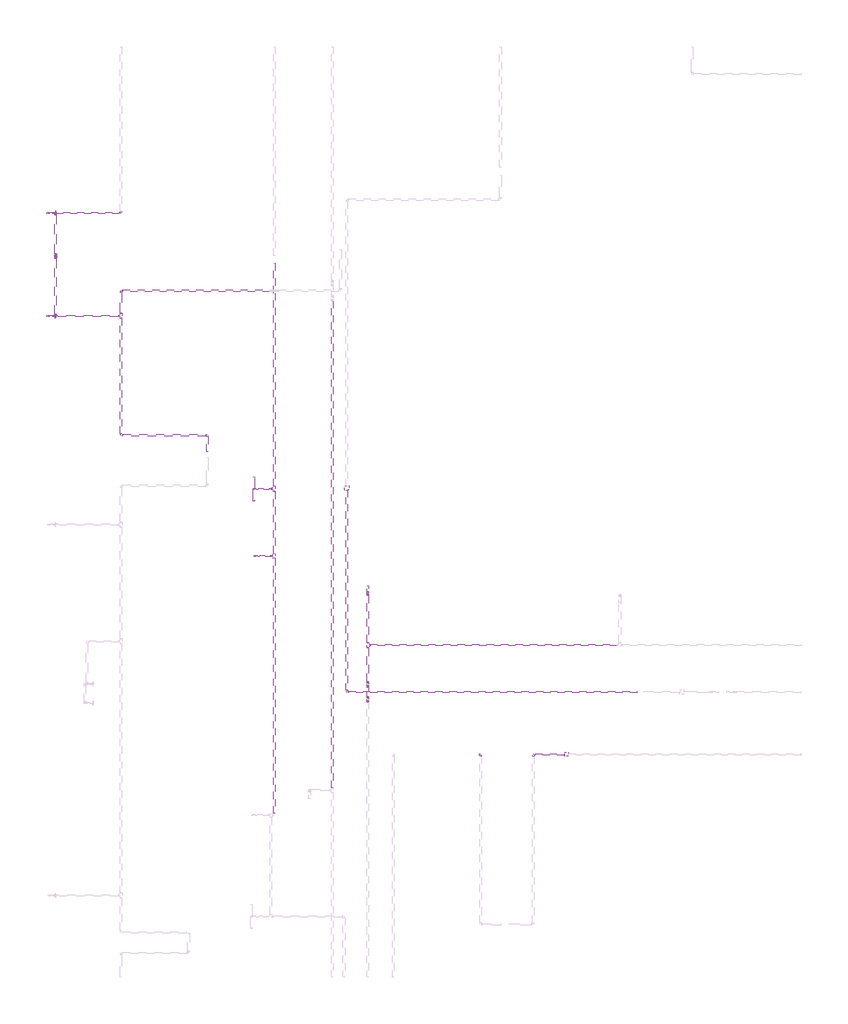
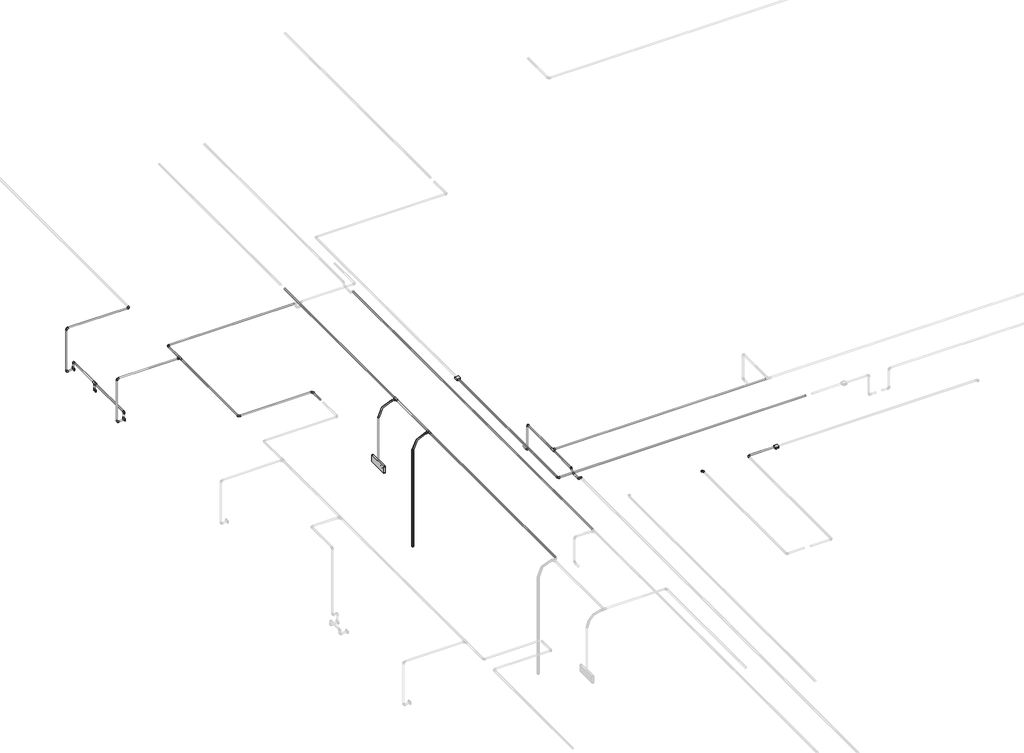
# One storey, part 15 of 40: 35 cable carrier segments, 26 cable carrier fittings, 3 alarms, 3 electric appliances.
"""IFC4 building model written with IfcOpenShell, lengths in millimetres."""

from ifc_helpers import new_model, si_unit, point, frame, frame_2d, origin, place, context, project, spatial, circle_curve, trimmed, segment, composite_curve, outline, extrude, transform, mapped, element, save
from components import alarm_4b7e8fd8, alarm_a2247946, cable_carrier_fitting_69f1a801, cable_carrier_fitting_6f8a8c02, cable_carrier_fitting_8122f9af, cable_carrier_fitting_8fd13dfc, electric_appliance_5961a143

model = new_model("IFC4")

# Units and contexts
model_context = context("Model", 3, world=origin())
ifc_project = project(units=[si_unit("LENGTHUNIT", "METRE", prefix="MILLI")], contexts=[model_context])

# Site, building, storey
site = spatial("IfcSite", under=ifc_project)
building = spatial("IfcBuilding", under=site)
storey = spatial("IfcBuildingStorey", under=building, Name="1 этаж", Elevation=0.0)

# Alarms
placement = place(None, origin())
alarm_shape = alarm_4b7e8fd8(model_context)
element("IfcAlarm", 1, ObjectType="RBZ_Оповещатель_Световой_Рубеж_ОПОП1-R3(грань) : ОПОП 1-R3 \"Выход\"", at=placement, inside=storey, context=model_context, shape_type="MappedRepresentation", body=[
    mapped(alarm_shape, transform((-35882.3240021, 7612.1370105, 2300.0), x_axis=(0.0, 1.0, 0.0), y_axis=(0.0, 0.0, 1.0), z_axis=(1.0, 0.0, 0.0))),
])
alarm_2_shape = alarm_a2247946(model_context)
element("IfcAlarm", 2, ObjectType="RBZ_ИзоляторШлейфа_Рубеж_ИЗ-1_прот.R3(плоскость) : ИЗ-1 прот.R3", at=placement, inside=storey, context=model_context, shape_type="MappedRepresentation", body=[
    mapped(alarm_2_shape, transform((-32062.3240021, 4379.6370103, 3197.7541146), x_axis=(1.0, 0.0, 0.0), y_axis=(0.0, 1.0, 0.0), z_axis=(0.0, 0.0, 1.0))),
])
element("IfcAlarm", 3, ObjectType="RBZ_ИзоляторШлейфа_Рубеж_ИЗ-1_прот.R3(плоскость) : ИЗ-1 прот.R3", at=placement, inside=storey, context=model_context, shape_type="MappedRepresentation", body=[
    mapped(alarm_2_shape, transform((-34737.3240021, 7623.7184773, 3200.75), x_axis=(1.0, 0.0, 0.0), y_axis=(0.0, 1.0, 0.0), z_axis=(0.0, 0.0, 1.0))),
])

# Cable carrier fittings
cable_carrier_fitting_shape = cable_carrier_fitting_69f1a801(model_context)
element("IfcCableCarrierFitting", 4, ObjectType="ADSK_Поворот_Минимальный размер : Неспецифицируемый", at=placement, inside=storey, context=model_context, shape_type="MappedRepresentation", body=[
    mapped(cable_carrier_fitting_shape, transform((-32465.8231258, 4379.6370103, 3187.0041146), x_axis=(-1.0, 0.0, 0.0), y_axis=(0.0, -1.0, 0.0), z_axis=(0.0, 0.0, 1.0))),
])
element("IfcCableCarrierFitting", 5, ObjectType="ADSK_Поворот_Минимальный размер : Неспецифицируемый", at=placement, inside=storey, context=model_context, shape_type="MappedRepresentation", body=[
    mapped(cable_carrier_fitting_shape, transform((-33108.8239961, 4379.6370105, 3187.002391), x_axis=(0.0, 1.0, 0.0), y_axis=(-0.9999999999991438, 0.0, -1.3086076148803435e-06), z_axis=(-1.3086076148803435e-06, 0.0, 0.9999999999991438))),
])
element("IfcCableCarrierFitting", 6, ObjectType="ADSK_Поворот_Минимальный размер : Неспецифицируемый", at=placement, inside=storey, context=model_context, shape_type="MappedRepresentation", body=[
    mapped(cable_carrier_fitting_shape, transform((-34737.3240021, 5139.6370105, 3190.0), x_axis=(0.0, -1.0, 0.0), y_axis=(1.0, 0.0, 0.0), z_axis=(0.0, 0.0, 1.0))),
])
element("IfcCableCarrierFitting", 7, ObjectType="ADSK_Поворот_Минимальный размер : Неспецифицируемый", at=placement, inside=storey, context=model_context, shape_type="MappedRepresentation", body=[
    mapped(cable_carrier_fitting_shape, transform((-38386.5238077, 10971.1370105, 3187.0), x_axis=(0.0, 0.0, 1.0), y_axis=(1.0, 0.0, 0.0), z_axis=(0.0, 1.0, 0.0))),
])
element("IfcCableCarrierFitting", 8, ObjectType="ADSK_Поворот_Минимальный размер : Неспецифицируемый", at=placement, inside=storey, context=model_context, shape_type="MappedRepresentation", body=[
    mapped(cable_carrier_fitting_shape, transform((-38286.3240021, 9717.1370105, 2650.0), x_axis=(0.0, -1.0, 0.0), y_axis=(0.0, 0.0, -1.0), z_axis=(1.0, 0.0, 0.0))),
])
element("IfcCableCarrierFitting", 9, ObjectType="ADSK_Поворот_Минимальный размер : Неспецифицируемый", at=placement, inside=storey, context=model_context, shape_type="MappedRepresentation", body=[
    mapped(cable_carrier_fitting_shape, transform((-38386.5238077, 9717.1370105, 2534.0911237), x_axis=(0.0, 0.0, -1.0), y_axis=(1.0, 0.0, 0.0), z_axis=(0.0, -1.0, 0.0))),
])
element("IfcCableCarrierFitting", 10, ObjectType="ADSK_Поворот_Минимальный размер : Неспецифицируемый", at=placement, inside=storey, context=model_context, shape_type="MappedRepresentation", body=[
    mapped(cable_carrier_fitting_shape, transform((-38386.5238077, 10971.1370105, 2534.0911237), x_axis=(0.0, 0.0, -1.0), y_axis=(1.0, 0.0, 0.0), z_axis=(0.0, -1.0, 0.0))),
])
element("IfcCableCarrierFitting", 11, ObjectType="ADSK_Поворот_Минимальный размер : Неспецифицируемый", at=placement, inside=storey, context=model_context, shape_type="MappedRepresentation", body=[
    mapped(cable_carrier_fitting_shape, transform((-36434.8240021, 8264.5987933, 3187.0), x_axis=(0.0, 1.0, 0.0), y_axis=(-1.0, 0.0, 0.0), z_axis=(0.0, 0.0, 1.0))),
])
element("IfcCableCarrierFitting", 12, ObjectType="ADSK_Поворот_Минимальный размер : Неспецифицируемый", at=placement, inside=storey, context=model_context, shape_type="MappedRepresentation", body=[
    mapped(cable_carrier_fitting_shape, transform((-37489.3240021, 10024.6370105, 3187.0), x_axis=(-1.0, 0.0, 0.0), y_axis=(0.0, -1.0, 0.0), z_axis=(0.0, 0.0, 1.0))),
])
element("IfcCableCarrierFitting", 13, ObjectType="ADSK_Поворот_Минимальный размер : Неспецифицируемый", at=placement, inside=storey, context=model_context, shape_type="MappedRepresentation", body=[
    mapped(cable_carrier_fitting_shape, transform((-37489.3240021, 8264.5987933, 3187.0), x_axis=(0.0, -1.0, 0.0), y_axis=(1.0, 0.0, 0.0), z_axis=(0.0, 0.0, 1.0))),
])
element("IfcCableCarrierFitting", 14, ObjectType="ADSK_Поворот_Минимальный размер : Неспецифицируемый", at=placement, inside=storey, context=model_context, shape_type="MappedRepresentation", body=[
    mapped(cable_carrier_fitting_shape, transform((-38386.5238077, 9717.1370105, 3187.0), x_axis=(0.0, 0.0, 1.0), y_axis=(1.0, 0.0, 0.0), z_axis=(0.0, 1.0, 0.0))),
])
element("IfcCableCarrierFitting", 15, ObjectType="ADSK_Поворот_Минимальный размер : Неспецифицируемый", at=placement, inside=storey, context=model_context, shape_type="MappedRepresentation", body=[
    mapped(cable_carrier_fitting_shape, transform((-34481.7856953, 6337.4372049, 2797.4861504), x_axis=(0.0, -1.0, 0.0), y_axis=(0.0, 0.0, 1.0), z_axis=(-1.0, 0.0, 0.0))),
])
element("IfcCableCarrierFitting", 16, ObjectType="ADSK_Поворот_Минимальный размер : Неспецифицируемый", at=placement, inside=storey, context=model_context, shape_type="MappedRepresentation", body=[
    mapped(cable_carrier_fitting_shape, transform((-34481.7856953, 6337.4372049, 3180.0), x_axis=(0.0, 0.0, 1.0), y_axis=(0.0, -1.0, 0.0), z_axis=(1.0, 0.0, 0.0))),
])
element("IfcCableCarrierFitting", 17, ObjectType="ADSK_Поворот_Минимальный размер : Неспецифицируемый", at=placement, inside=storey, context=model_context, shape_type="MappedRepresentation", body=[
    mapped(cable_carrier_fitting_shape, transform((-37489.3240021, 10971.1370105, 3187.0), x_axis=(1.0, 0.0, 0.0), y_axis=(0.0, 1.0, 0.0), z_axis=(0.0, 0.0, 1.0))),
])
element("IfcCableCarrierFitting", 18, ObjectType="ADSK_Поворот_Минимальный размер : Неспецифицируемый", at=placement, inside=storey, context=model_context, shape_type="MappedRepresentation", body=[
    mapped(cable_carrier_fitting_shape, transform((-38286.3240021, 10971.1370105, 2650.0), x_axis=(0.0, 1.0, 0.0), y_axis=(0.0, 0.0, -1.0), z_axis=(-1.0, 0.0, 0.0))),
])
cable_carrier_fitting_2_shape = cable_carrier_fitting_6f8a8c02(model_context)
element("IfcCableCarrierFitting", 19, ObjectType="ADSK_Поворот_Минимальный размер : Неспецифицируемый", at=placement, inside=storey, context=model_context, shape_type="MappedRepresentation", body=[
    mapped(cable_carrier_fitting_2_shape, transform((-35854.8402119, 6794.6370105, 3190.0666752), x_axis=(0.0, 0.0, 1.0), y_axis=(1.0, 0.0, 0.0), z_axis=(0.0, 1.0, 0.0))),
])
element("IfcCableCarrierFitting", 20, ObjectType="ADSK_Поворот_Минимальный размер : Неспецифицируемый", at=placement, inside=storey, context=model_context, shape_type="MappedRepresentation", body=[
    mapped(cable_carrier_fitting_2_shape, transform((-35872.3240021, 7612.1370105, 3190.0666752), x_axis=(0.0, 0.0, 1.0), y_axis=(1.0, 0.0, 0.0), z_axis=(0.0, 1.0, 0.0))),
])
cable_carrier_fitting_3_shape = cable_carrier_fitting_8122f9af(model_context)
element("IfcCableCarrierFitting", 21, ObjectType="ADSK_Поворот_Минимальный размер : Неспецифицируемый", at=placement, inside=storey, context=model_context, shape_type="MappedRepresentation", body=[
    mapped(cable_carrier_fitting_3_shape, transform((-34481.7856953, 5073.0647393, 3130.0), x_axis=(0.0, 0.7071067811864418, -0.7071067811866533), y_axis=(0.0, 0.7071067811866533, 0.7071067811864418), z_axis=(1.0, 0.0, 0.0))),
])
element("IfcCableCarrierFitting", 22, ObjectType="ADSK_Поворот_Минимальный размер : Неспецифицируемый", at=placement, inside=storey, context=model_context, shape_type="MappedRepresentation", body=[
    mapped(cable_carrier_fitting_3_shape, transform((-34481.7856953, 5206.2092818, 3130.0), x_axis=(0.0, 1.0, 0.0), y_axis=(0.0, 0.0, 1.0), z_axis=(1.0, 0.0, 0.0))),
])
element("IfcCableCarrierFitting", 23, ObjectType="ADSK_Поворот_Минимальный размер : Неспецифицируемый", at=placement, inside=storey, context=model_context, shape_type="MappedRepresentation", body=[
    mapped(cable_carrier_fitting_3_shape, transform((-34481.7856953, 5256.2092818, 3180.0), x_axis=(0.0, 0.7071067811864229, 0.7071067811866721), y_axis=(0.0, 0.7071067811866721, -0.7071067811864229), z_axis=(-1.0, 0.0, 0.0))),
])
element("IfcCableCarrierFitting", 24, ObjectType="ADSK_Поворот_Минимальный размер : Неспецифицируемый", at=placement, inside=storey, context=model_context, shape_type="MappedRepresentation", body=[
    mapped(cable_carrier_fitting_3_shape, transform((-34481.7856953, 5023.0647393, 3180.0), x_axis=(0.0, -0.7071067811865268, 0.7071067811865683), y_axis=(0.0, -0.7071067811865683, -0.7071067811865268), z_axis=(1.0, 0.0, 0.0))),
])
cable_carrier_fitting_4_shape = cable_carrier_fitting_8fd13dfc(model_context)
element("IfcCableCarrierFitting", 25, ObjectType="ADSK_Тройник : ПВХ", at=placement, inside=storey, context=model_context, shape_type="MappedRepresentation", body=[
    mapped(cable_carrier_fitting_4_shape, transform((-35623.0641762, 6794.6370105, 3190.0666752), x_axis=(0.0, -1.0, 0.0), y_axis=(1.0, 0.0, 0.0), z_axis=(0.0, 0.0, 1.0))),
])
element("IfcCableCarrierFitting", 26, ObjectType="ADSK_Тройник : ПВХ", at=placement, inside=storey, context=model_context, shape_type="MappedRepresentation", body=[
    mapped(cable_carrier_fitting_4_shape, transform((-35623.0641762, 7612.1370105, 3190.0666752), x_axis=(0.0, -1.0, 0.0), y_axis=(1.0, 0.0, 0.0), z_axis=(0.0, 0.0, 1.0))),
])
element("IfcCableCarrierFitting", 27, ObjectType="ADSK_Тройник : ПВХ", at=placement, inside=storey, context=model_context, shape_type="MappedRepresentation", body=[
    mapped(cable_carrier_fitting_4_shape, transform((-38286.3240021, 10442.1370105, 2650.0), x_axis=(0.0, 1.0, 0.0), y_axis=(0.0, 0.0, 1.0), z_axis=(1.0, 0.0, 0.0))),
])
element("IfcCableCarrierFitting", 28, ObjectType="ADSK_Тройник : ПВХ", at=placement, inside=storey, context=model_context, shape_type="MappedRepresentation", body=[
    mapped(cable_carrier_fitting_4_shape, transform((-37489.3240021, 9717.1370105, 3187.0), x_axis=(0.0, -1.0, 0.0), y_axis=(1.0, 0.0, 0.0), z_axis=(0.0, 0.0, 1.0))),
])
element("IfcCableCarrierFitting", 29, ObjectType="ADSK_Тройник : ПВХ", at=placement, inside=storey, context=model_context, shape_type="MappedRepresentation", body=[
    mapped(cable_carrier_fitting_4_shape, transform((-34481.7856953, 5709.6370105, 3180.0), x_axis=(0.0, 1.0, 0.0), y_axis=(-1.0, 0.0, 0.0), z_axis=(0.0, 0.0, 1.0))),
])

# Cable carrier segments
element("IfcCableCarrierSegment", 30, ObjectType="Гофрированная труба", at=placement, inside=storey, context=model_context, shape_type="SweptSolid", body=[
    extrude(outline(composite_curve([segment(trimmed(circle_curve(frame_2d((4379.6370103, 3187.0041146)), 10.0), [point((4369.6370103, 3187.0041146))], [point((4379.6370103, 3197.0041146))], False, "CARTESIAN"), True, "CONTINUOUS"), segment(trimmed(circle_curve(frame_2d((4379.6370103, 3187.0041146)), 10.0), [point((4379.6370103, 3197.0041146))], [point((4389.6370103, 3187.0041146))], False, "CARTESIAN"), True, "CONTINUOUS"), segment(trimmed(circle_curve(frame_2d((4379.6370103, 3187.0041146)), 10.0), [point((4389.6370103, 3187.0041146))], [point((4379.6370103, 3177.0041146))], False, "CARTESIAN"), True, "CONTINUOUS"), segment(trimmed(circle_curve(frame_2d((4379.6370103, 3187.0041146)), 10.0), [point((4379.6370103, 3177.0041146))], [point((4369.6370103, 3187.0041146))], False, "CARTESIAN"), True, "CONTINUOUS")], self_intersect=False)), frame((-32444.8231258, 0.0, 0.0), z_axis=(1.0, 0.0, 0.0), x_axis=(0.0, 1.0, 0.0)), (0.0, 0.0, 1.0), 356.4991237),
])
element("IfcCableCarrierSegment", 31, ObjectType="Гофрированная труба", at=placement, inside=storey, context=model_context, shape_type="SweptSolid", body=[
    extrude(outline(composite_curve([segment(trimmed(circle_curve(frame_2d((3190.0666752, -35623.0641762)), 10.0), [point((3190.0666752, -35613.0641762))], [point((3200.0666752, -35623.0641762))], False, "CARTESIAN"), True, "CONTINUOUS"), segment(trimmed(circle_curve(frame_2d((3190.0666752, -35623.0641762)), 10.0), [point((3200.0666752, -35623.0641762))], [point((3190.0666752, -35633.0641762))], False, "CARTESIAN"), True, "CONTINUOUS"), segment(trimmed(circle_curve(frame_2d((3190.0666752, -35623.0641762)), 10.0), [point((3190.0666752, -35633.0641762))], [point((3180.0666752, -35623.0641762))], False, "CARTESIAN"), True, "CONTINUOUS"), segment(trimmed(circle_curve(frame_2d((3190.0666752, -35623.0641762)), 10.0), [point((3180.0666752, -35623.0641762))], [point((3190.0666752, -35613.0641762))], False, "CARTESIAN"), True, "CONTINUOUS")], self_intersect=False)), frame((0.0, 3663.1370105, 0.0), z_axis=(0.0, 1.0, 0.0), x_axis=(0.0, 0.0, 1.0)), (0.0, 0.0, 1.0), 3101.5),
])
element("IfcCableCarrierSegment", 32, ObjectType="Гофрированная труба", at=placement, inside=storey, context=model_context, shape_type="SweptSolid", body=[
    extrude(outline(composite_curve([segment(trimmed(circle_curve(frame_2d((6794.6370105, 3190.0666752)), 10.0), [point((6804.6370105, 3190.0666752))], [point((6794.6370105, 3180.0666752))], False, "CARTESIAN"), True, "CONTINUOUS"), segment(trimmed(circle_curve(frame_2d((6794.6370105, 3190.0666752)), 10.0), [point((6794.6370105, 3180.0666752))], [point((6784.6370105, 3190.0666752))], False, "CARTESIAN"), True, "CONTINUOUS"), segment(trimmed(circle_curve(frame_2d((6794.6370105, 3190.0666752)), 10.0), [point((6784.6370105, 3190.0666752))], [point((6794.6370105, 3200.0666752))], False, "CARTESIAN"), True, "CONTINUOUS"), segment(trimmed(circle_curve(frame_2d((6794.6370105, 3190.0666752)), 10.0), [point((6794.6370105, 3200.0666752))], [point((6804.6370105, 3190.0666752))], False, "CARTESIAN"), True, "CONTINUOUS")], self_intersect=False)), frame((-35664.8402119, 0.0, 0.0), z_axis=(1.0, 0.0, 0.0), x_axis=(0.0, 1.0, 0.0)), (0.0, 0.0, 1.0), 11.7760356),
])
element("IfcCableCarrierSegment", 33, ObjectType="Гофрированная труба", at=placement, inside=storey, context=model_context, shape_type="SweptSolid", body=[
    extrude(outline(composite_curve([segment(trimmed(circle_curve(frame_2d((-35854.8402119, 6794.6370105)), 10.0), [point((-35864.8402119, 6794.6370105))], [point((-35854.8402119, 6804.6370105))], False, "CARTESIAN"), True, "CONTINUOUS"), segment(trimmed(circle_curve(frame_2d((-35854.8402119, 6794.6370105)), 10.0), [point((-35854.8402119, 6804.6370105))], [point((-35844.8402119, 6794.6370105))], False, "CARTESIAN"), True, "CONTINUOUS"), segment(trimmed(circle_curve(frame_2d((-35854.8402119, 6794.6370105)), 10.0), [point((-35844.8402119, 6794.6370105))], [point((-35854.8402119, 6784.6370105))], False, "CARTESIAN"), True, "CONTINUOUS"), segment(trimmed(circle_curve(frame_2d((-35854.8402119, 6794.6370105)), 10.0), [point((-35854.8402119, 6784.6370105))], [point((-35864.8402119, 6794.6370105))], False, "CARTESIAN"), True, "CONTINUOUS")], self_intersect=False)), frame((0.0, 0.0, 1544.0), z_axis=(0.0, 0.0, 1.0), x_axis=(1.0, 0.0, 0.0)), (0.0, 0.0, 1.0), 1456.0666752),
])
element("IfcCableCarrierSegment", 34, ObjectType="Гофрированная труба", at=placement, inside=storey, context=model_context, shape_type="SweptSolid", body=[
    extrude(outline(composite_curve([segment(trimmed(circle_curve(frame_2d((0.0, 10.0)), 10.0), [point((0.0, 0.0))], [point((-10.0, 10.0))], False, "CARTESIAN"), True, "CONTINUOUS"), segment(trimmed(circle_curve(frame_2d((0.0, 10.0)), 10.0), [point((-10.0, 10.0))], [point((0.0, 20.0))], False, "CARTESIAN"), True, "CONTINUOUS"), segment(trimmed(circle_curve(frame_2d((0.0, 10.0)), 10.0), [point((0.0, 20.0))], [point((10.0, 10.0))], False, "CARTESIAN"), True, "CONTINUOUS"), segment(trimmed(circle_curve(frame_2d((0.0, 10.0)), 10.0), [point((10.0, 10.0))], [point((0.0, 0.0))], False, "CARTESIAN"), True, "CONTINUOUS")], self_intersect=False)), frame((-35633.0641762, 10358.1370105, 3190.0420524), z_axis=(0.0, -0.9999999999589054, 9.065831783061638e-06), x_axis=(0.0, -9.065831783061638e-06, -0.9999999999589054)), (0.0, 0.0, 1.0), 2716.0000001),
])
element("IfcCableCarrierSegment", 35, ObjectType="Гофрированная труба", at=placement, inside=storey, context=model_context, shape_type="SweptSolid", body=[
    extrude(outline(composite_curve([segment(trimmed(circle_curve(frame_2d((7612.1370105, 3190.0666752)), 10.0), [point((7622.1370105, 3190.0666752))], [point((7612.1370105, 3180.0666752))], False, "CARTESIAN"), True, "CONTINUOUS"), segment(trimmed(circle_curve(frame_2d((7612.1370105, 3190.0666752)), 10.0), [point((7612.1370105, 3180.0666752))], [point((7602.1370105, 3190.0666752))], False, "CARTESIAN"), True, "CONTINUOUS"), segment(trimmed(circle_curve(frame_2d((7612.1370105, 3190.0666752)), 10.0), [point((7602.1370105, 3190.0666752))], [point((7612.1370105, 3200.0666752))], False, "CARTESIAN"), True, "CONTINUOUS"), segment(trimmed(circle_curve(frame_2d((7612.1370105, 3190.0666752)), 10.0), [point((7612.1370105, 3200.0666752))], [point((7622.1370105, 3190.0666752))], False, "CARTESIAN"), True, "CONTINUOUS")], self_intersect=False)), frame((-35682.3240021, 0.0, 0.0), z_axis=(1.0, 0.0, 0.0), x_axis=(0.0, 1.0, 0.0)), (0.0, 0.0, 1.0), 29.2598259),
])
element("IfcCableCarrierSegment", 36, ObjectType="Гофрированная труба", at=placement, inside=storey, context=model_context, shape_type="SweptSolid", body=[
    extrude(outline(composite_curve([segment(trimmed(circle_curve(frame_2d((-35872.3240021, 7612.1370105)), 10.0), [point((-35882.3240021, 7612.1370105))], [point((-35872.3240021, 7622.1370105))], False, "CARTESIAN"), True, "CONTINUOUS"), segment(trimmed(circle_curve(frame_2d((-35872.3240021, 7612.1370105)), 10.0), [point((-35872.3240021, 7622.1370105))], [point((-35862.3240021, 7612.1370105))], False, "CARTESIAN"), True, "CONTINUOUS"), segment(trimmed(circle_curve(frame_2d((-35872.3240021, 7612.1370105)), 10.0), [point((-35862.3240021, 7612.1370105))], [point((-35872.3240021, 7602.1370105))], False, "CARTESIAN"), True, "CONTINUOUS"), segment(trimmed(circle_curve(frame_2d((-35872.3240021, 7612.1370105)), 10.0), [point((-35872.3240021, 7602.1370105))], [point((-35882.3240021, 7612.1370105))], False, "CARTESIAN"), True, "CONTINUOUS")], self_intersect=False)), frame((0.0, 0.0, 2350.0), z_axis=(0.0, 0.0, 1.0), x_axis=(1.0, 0.0, 0.0)), (0.0, 0.0, 1.0), 650.0666752),
])
element("IfcCableCarrierSegment", 37, ObjectType="Гофрированная труба", at=placement, inside=storey, context=model_context, shape_type="SweptSolid", body=[
    extrude(outline(composite_curve([segment(trimmed(circle_curve(frame_2d((3190.0666752, -35623.0641762)), 10.0), [point((3190.0666752, -35613.0641762))], [point((3200.0666752, -35623.0641762))], False, "CARTESIAN"), True, "CONTINUOUS"), segment(trimmed(circle_curve(frame_2d((3190.0666752, -35623.0641762)), 10.0), [point((3200.0666752, -35623.0641762))], [point((3190.0666752, -35633.0641762))], False, "CARTESIAN"), True, "CONTINUOUS"), segment(trimmed(circle_curve(frame_2d((3190.0666752, -35623.0641762)), 10.0), [point((3190.0666752, -35633.0641762))], [point((3180.0666752, -35623.0641762))], False, "CARTESIAN"), True, "CONTINUOUS"), segment(trimmed(circle_curve(frame_2d((3190.0666752, -35623.0641762)), 10.0), [point((3180.0666752, -35623.0641762))], [point((3190.0666752, -35613.0641762))], False, "CARTESIAN"), True, "CONTINUOUS")], self_intersect=False)), frame((0.0, 6824.6370105, 0.0), z_axis=(0.0, 1.0, 0.0), x_axis=(0.0, 0.0, 1.0)), (0.0, 0.0, 1.0), 757.5),
])
element("IfcCableCarrierSegment", 38, ObjectType="Гофрированная труба", at=placement, inside=storey, context=model_context, shape_type="SweptSolid", body=[
    extrude(outline(composite_curve([segment(trimmed(circle_curve(frame_2d((3190.0, -34737.3240021)), 10.0), [point((3190.0, -34727.3240021))], [point((3200.0, -34737.3240021))], False, "CARTESIAN"), True, "CONTINUOUS"), segment(trimmed(circle_curve(frame_2d((3190.0, -34737.3240021)), 10.0), [point((3200.0, -34737.3240021))], [point((3190.0, -34747.3240021))], False, "CARTESIAN"), True, "CONTINUOUS"), segment(trimmed(circle_curve(frame_2d((3190.0, -34737.3240021)), 10.0), [point((3190.0, -34747.3240021))], [point((3180.0, -34737.3240021))], False, "CARTESIAN"), True, "CONTINUOUS"), segment(trimmed(circle_curve(frame_2d((3190.0, -34737.3240021)), 10.0), [point((3180.0, -34737.3240021))], [point((3190.0, -34727.3240021))], False, "CARTESIAN"), True, "CONTINUOUS")], self_intersect=False)), frame((0.0, 5160.6370105, 0.0), z_axis=(0.0, 1.0, 0.0), x_axis=(0.0, 0.0, 1.0)), (0.0, 0.0, 1.0), 2437.0814667),
])
element("IfcCableCarrierSegment", 39, ObjectType="Гофрированная труба", at=placement, inside=storey, context=model_context, shape_type="SweptSolid", body=[
    extrude(outline(composite_curve([segment(trimmed(circle_curve(frame_2d((5139.6370105, 3190.0)), 10.0), [point((5149.6370105, 3190.0))], [point((5139.6370105, 3180.0))], False, "CARTESIAN"), True, "CONTINUOUS"), segment(trimmed(circle_curve(frame_2d((5139.6370105, 3190.0)), 10.0), [point((5139.6370105, 3180.0))], [point((5129.6370105, 3190.0))], False, "CARTESIAN"), True, "CONTINUOUS"), segment(trimmed(circle_curve(frame_2d((5139.6370105, 3190.0)), 10.0), [point((5129.6370105, 3190.0))], [point((5139.6370105, 3200.0))], False, "CARTESIAN"), True, "CONTINUOUS"), segment(trimmed(circle_curve(frame_2d((5139.6370105, 3190.0)), 10.0), [point((5139.6370105, 3200.0))], [point((5149.6370105, 3190.0))], False, "CARTESIAN"), True, "CONTINUOUS")], self_intersect=False)), frame((-34716.3240021, 0.0, 0.0), z_axis=(1.0, 0.0, 0.0), x_axis=(0.0, 1.0, 0.0)), (0.0, 0.0, 1.0), 3512.5),
])
element("IfcCableCarrierSegment", 40, ObjectType="Гофрированная труба", at=placement, inside=storey, context=model_context, shape_type="SweptSolid", body=[
    extrude(outline(composite_curve([segment(trimmed(circle_curve(frame_2d((3187.0, -37489.3240021)), 10.0), [point((3187.0, -37499.3240021))], [point((3177.0, -37489.3240021))], False, "CARTESIAN"), True, "CONTINUOUS"), segment(trimmed(circle_curve(frame_2d((3187.0, -37489.3240021)), 10.0), [point((3177.0, -37489.3240021))], [point((3187.0, -37479.3240021))], False, "CARTESIAN"), True, "CONTINUOUS"), segment(trimmed(circle_curve(frame_2d((3187.0, -37489.3240021)), 10.0), [point((3187.0, -37479.3240021))], [point((3197.0, -37489.3240021))], False, "CARTESIAN"), True, "CONTINUOUS"), segment(trimmed(circle_curve(frame_2d((3187.0, -37489.3240021)), 10.0), [point((3197.0, -37489.3240021))], [point((3187.0, -37499.3240021))], False, "CARTESIAN"), True, "CONTINUOUS")], self_intersect=False)), frame((0.0, 8285.5987933, 0.0), z_axis=(0.0, 1.0, 0.0), x_axis=(0.0, 0.0, 1.0)), (0.0, 0.0, 1.0), 1401.5382172),
])
element("IfcCableCarrierSegment", 41, ObjectType="Гофрированная труба", at=placement, inside=storey, context=model_context, shape_type="SweptSolid", body=[
    extrude(outline(composite_curve([segment(trimmed(circle_curve(frame_2d((-38286.3240021, 10442.1370105)), 10.0), [point((-38276.3240021, 10442.1370105))], [point((-38286.3240021, 10432.1370105))], False, "CARTESIAN"), True, "CONTINUOUS"), segment(trimmed(circle_curve(frame_2d((-38286.3240021, 10442.1370105)), 10.0), [point((-38286.3240021, 10432.1370105))], [point((-38296.3240021, 10442.1370105))], False, "CARTESIAN"), True, "CONTINUOUS"), segment(trimmed(circle_curve(frame_2d((-38286.3240021, 10442.1370105)), 10.0), [point((-38296.3240021, 10442.1370105))], [point((-38286.3240021, 10452.1370105))], False, "CARTESIAN"), True, "CONTINUOUS"), segment(trimmed(circle_curve(frame_2d((-38286.3240021, 10442.1370105)), 10.0), [point((-38286.3240021, 10452.1370105))], [point((-38276.3240021, 10442.1370105))], False, "CARTESIAN"), True, "CONTINUOUS")], self_intersect=False)), frame((0.0, 0.0, 2563.1207114), z_axis=(0.0, 0.0, 1.0), x_axis=(1.0, 0.0, 0.0)), (0.0, 0.0, 1.0), 56.8792886),
])
element("IfcCableCarrierSegment", 42, ObjectType="Гофрированная труба", at=placement, inside=storey, context=model_context, shape_type="SweptSolid", body=[
    extrude(outline(composite_curve([segment(trimmed(circle_curve(frame_2d((-38286.3240021, 9717.1370105)), 10.0), [point((-38276.3240021, 9717.1370105))], [point((-38286.3240021, 9707.1370105))], False, "CARTESIAN"), True, "CONTINUOUS"), segment(trimmed(circle_curve(frame_2d((-38286.3240021, 9717.1370105)), 10.0), [point((-38286.3240021, 9707.1370105))], [point((-38296.3240021, 9717.1370105))], False, "CARTESIAN"), True, "CONTINUOUS"), segment(trimmed(circle_curve(frame_2d((-38286.3240021, 9717.1370105)), 10.0), [point((-38296.3240021, 9717.1370105))], [point((-38286.3240021, 9727.1370105))], False, "CARTESIAN"), True, "CONTINUOUS"), segment(trimmed(circle_curve(frame_2d((-38286.3240021, 9717.1370105)), 10.0), [point((-38286.3240021, 9727.1370105))], [point((-38276.3240021, 9717.1370105))], False, "CARTESIAN"), True, "CONTINUOUS")], self_intersect=False)), frame((0.0, 0.0, 2563.1207114), z_axis=(0.0, 0.0, 1.0), x_axis=(1.0, 0.0, 0.0)), (0.0, 0.0, 1.0), 65.8792886),
])
element("IfcCableCarrierSegment", 43, ObjectType="Гофрированная труба", at=placement, inside=storey, context=model_context, shape_type="SweptSolid", body=[
    extrude(outline(composite_curve([segment(trimmed(circle_curve(frame_2d((2650.0, -38286.3240021)), 10.0), [point((2650.0, -38296.3240021))], [point((2640.0, -38286.3240021))], False, "CARTESIAN"), True, "CONTINUOUS"), segment(trimmed(circle_curve(frame_2d((2650.0, -38286.3240021)), 10.0), [point((2640.0, -38286.3240021))], [point((2650.0, -38276.3240021))], False, "CARTESIAN"), True, "CONTINUOUS"), segment(trimmed(circle_curve(frame_2d((2650.0, -38286.3240021)), 10.0), [point((2650.0, -38276.3240021))], [point((2660.0, -38286.3240021))], False, "CARTESIAN"), True, "CONTINUOUS"), segment(trimmed(circle_curve(frame_2d((2650.0, -38286.3240021)), 10.0), [point((2660.0, -38286.3240021))], [point((2650.0, -38296.3240021))], False, "CARTESIAN"), True, "CONTINUOUS")], self_intersect=False)), frame((0.0, 9738.1370105, 0.0), z_axis=(0.0, 1.0, 0.0), x_axis=(0.0, 0.0, 1.0)), (0.0, 0.0, 1.0), 674.0),
])
element("IfcCableCarrierSegment", 44, ObjectType="Гофрированная труба", at=placement, inside=storey, context=model_context, shape_type="SweptSolid", body=[
    extrude(outline(composite_curve([segment(trimmed(circle_curve(frame_2d((-38286.3240021, 10971.1370105)), 10.0), [point((-38276.3240021, 10971.1370105))], [point((-38286.3240021, 10961.1370105))], False, "CARTESIAN"), True, "CONTINUOUS"), segment(trimmed(circle_curve(frame_2d((-38286.3240021, 10971.1370105)), 10.0), [point((-38286.3240021, 10961.1370105))], [point((-38296.3240021, 10971.1370105))], False, "CARTESIAN"), True, "CONTINUOUS"), segment(trimmed(circle_curve(frame_2d((-38286.3240021, 10971.1370105)), 10.0), [point((-38296.3240021, 10971.1370105))], [point((-38286.3240021, 10981.1370105))], False, "CARTESIAN"), True, "CONTINUOUS"), segment(trimmed(circle_curve(frame_2d((-38286.3240021, 10971.1370105)), 10.0), [point((-38286.3240021, 10981.1370105))], [point((-38276.3240021, 10971.1370105))], False, "CARTESIAN"), True, "CONTINUOUS")], self_intersect=False)), frame((0.0, 0.0, 2563.1207114), z_axis=(0.0, 0.0, 1.0), x_axis=(1.0, 0.0, 0.0)), (0.0, 0.0, 1.0), 65.8792886),
])
element("IfcCableCarrierSegment", 45, ObjectType="Гофрированная труба", at=placement, inside=storey, context=model_context, shape_type="SweptSolid", body=[
    extrude(outline(composite_curve([segment(trimmed(circle_curve(frame_2d((2650.0, -38286.3240021)), 10.0), [point((2650.0, -38296.3240021))], [point((2640.0, -38286.3240021))], False, "CARTESIAN"), True, "CONTINUOUS"), segment(trimmed(circle_curve(frame_2d((2650.0, -38286.3240021)), 10.0), [point((2640.0, -38286.3240021))], [point((2650.0, -38276.3240021))], False, "CARTESIAN"), True, "CONTINUOUS"), segment(trimmed(circle_curve(frame_2d((2650.0, -38286.3240021)), 10.0), [point((2650.0, -38276.3240021))], [point((2660.0, -38286.3240021))], False, "CARTESIAN"), True, "CONTINUOUS"), segment(trimmed(circle_curve(frame_2d((2650.0, -38286.3240021)), 10.0), [point((2660.0, -38286.3240021))], [point((2650.0, -38296.3240021))], False, "CARTESIAN"), True, "CONTINUOUS")], self_intersect=False)), frame((0.0, 10472.1370105, 0.0), z_axis=(0.0, 1.0, 0.0), x_axis=(0.0, 0.0, 1.0)), (0.0, 0.0, 1.0), 478.0),
])
element("IfcCableCarrierSegment", 46, ObjectType="Гофрированная труба", at=placement, inside=storey, context=model_context, shape_type="SweptSolid", body=[
    extrude(outline(composite_curve([segment(trimmed(circle_curve(frame_2d((10971.1370105, 3187.0)), 10.0), [point((10961.1370105, 3187.0))], [point((10971.1370105, 3197.0))], False, "CARTESIAN"), True, "CONTINUOUS"), segment(trimmed(circle_curve(frame_2d((10971.1370105, 3187.0)), 10.0), [point((10971.1370105, 3197.0))], [point((10981.1370105, 3187.0))], False, "CARTESIAN"), True, "CONTINUOUS"), segment(trimmed(circle_curve(frame_2d((10971.1370105, 3187.0)), 10.0), [point((10981.1370105, 3187.0))], [point((10971.1370105, 3177.0))], False, "CARTESIAN"), True, "CONTINUOUS"), segment(trimmed(circle_curve(frame_2d((10971.1370105, 3187.0)), 10.0), [point((10971.1370105, 3177.0))], [point((10961.1370105, 3187.0))], False, "CARTESIAN"), True, "CONTINUOUS")], self_intersect=False)), frame((-38365.5238077, 0.0, 0.0), z_axis=(1.0, 0.0, 0.0), x_axis=(0.0, 1.0, 0.0)), (0.0, 0.0, 1.0), 855.1998056),
])
element("IfcCableCarrierSegment", 47, ObjectType="Гофрированная труба", at=placement, inside=storey, context=model_context, shape_type="SweptSolid", body=[
    extrude(outline(composite_curve([segment(trimmed(circle_curve(frame_2d((10971.1370105, 2534.0911237)), 10.0), [point((10961.1370105, 2534.0911237))], [point((10971.1370105, 2544.0911237))], False, "CARTESIAN"), True, "CONTINUOUS"), segment(trimmed(circle_curve(frame_2d((10971.1370105, 2534.0911237)), 10.0), [point((10971.1370105, 2544.0911237))], [point((10981.1370105, 2534.0911237))], False, "CARTESIAN"), True, "CONTINUOUS"), segment(trimmed(circle_curve(frame_2d((10971.1370105, 2534.0911237)), 10.0), [point((10981.1370105, 2534.0911237))], [point((10971.1370105, 2524.0911237))], False, "CARTESIAN"), True, "CONTINUOUS"), segment(trimmed(circle_curve(frame_2d((10971.1370105, 2534.0911237)), 10.0), [point((10971.1370105, 2524.0911237))], [point((10961.1370105, 2534.0911237))], False, "CARTESIAN"), True, "CONTINUOUS")], self_intersect=False)), frame((-38365.5238077, 0.0, 0.0), z_axis=(1.0, 0.0, 0.0), x_axis=(0.0, 1.0, 0.0)), (0.0, 0.0, 1.0), 76.1998056),
])
element("IfcCableCarrierSegment", 48, ObjectType="Гофрированная труба", at=placement, inside=storey, context=model_context, shape_type="SweptSolid", body=[
    extrude(outline(composite_curve([segment(trimmed(circle_curve(frame_2d((-38386.5238077, 10971.1370105)), 10.0), [point((-38396.5238077, 10971.1370105))], [point((-38386.5238077, 10981.1370105))], False, "CARTESIAN"), True, "CONTINUOUS"), segment(trimmed(circle_curve(frame_2d((-38386.5238077, 10971.1370105)), 10.0), [point((-38386.5238077, 10981.1370105))], [point((-38376.5238077, 10971.1370105))], False, "CARTESIAN"), True, "CONTINUOUS"), segment(trimmed(circle_curve(frame_2d((-38386.5238077, 10971.1370105)), 10.0), [point((-38376.5238077, 10971.1370105))], [point((-38386.5238077, 10961.1370105))], False, "CARTESIAN"), True, "CONTINUOUS"), segment(trimmed(circle_curve(frame_2d((-38386.5238077, 10971.1370105)), 10.0), [point((-38386.5238077, 10961.1370105))], [point((-38396.5238077, 10971.1370105))], False, "CARTESIAN"), True, "CONTINUOUS")], self_intersect=False)), frame((0.0, 0.0, 2555.0911237), z_axis=(0.0, 0.0, 1.0), x_axis=(1.0, 0.0, 0.0)), (0.0, 0.0, 1.0), 610.9088763),
])
element("IfcCableCarrierSegment", 49, ObjectType="Гофрированная труба", at=placement, inside=storey, context=model_context, shape_type="SweptSolid", body=[
    extrude(outline(composite_curve([segment(trimmed(circle_curve(frame_2d((9717.1370105, 3187.0)), 10.0), [point((9707.1370105, 3187.0))], [point((9717.1370105, 3197.0))], False, "CARTESIAN"), True, "CONTINUOUS"), segment(trimmed(circle_curve(frame_2d((9717.1370105, 3187.0)), 10.0), [point((9717.1370105, 3197.0))], [point((9727.1370105, 3187.0))], False, "CARTESIAN"), True, "CONTINUOUS"), segment(trimmed(circle_curve(frame_2d((9717.1370105, 3187.0)), 10.0), [point((9727.1370105, 3187.0))], [point((9717.1370105, 3177.0))], False, "CARTESIAN"), True, "CONTINUOUS"), segment(trimmed(circle_curve(frame_2d((9717.1370105, 3187.0)), 10.0), [point((9717.1370105, 3177.0))], [point((9707.1370105, 3187.0))], False, "CARTESIAN"), True, "CONTINUOUS")], self_intersect=False)), frame((-38365.5238077, 0.0, 0.0), z_axis=(1.0, 0.0, 0.0), x_axis=(0.0, 1.0, 0.0)), (0.0, 0.0, 1.0), 846.1998056),
])
element("IfcCableCarrierSegment", 50, ObjectType="Гофрированная труба", at=placement, inside=storey, context=model_context, shape_type="SweptSolid", body=[
    extrude(outline(composite_curve([segment(trimmed(circle_curve(frame_2d((9717.1370105, 2534.0911237)), 10.0), [point((9707.1370105, 2534.0911237))], [point((9717.1370105, 2544.0911237))], False, "CARTESIAN"), True, "CONTINUOUS"), segment(trimmed(circle_curve(frame_2d((9717.1370105, 2534.0911237)), 10.0), [point((9717.1370105, 2544.0911237))], [point((9727.1370105, 2534.0911237))], False, "CARTESIAN"), True, "CONTINUOUS"), segment(trimmed(circle_curve(frame_2d((9717.1370105, 2534.0911237)), 10.0), [point((9727.1370105, 2534.0911237))], [point((9717.1370105, 2524.0911237))], False, "CARTESIAN"), True, "CONTINUOUS"), segment(trimmed(circle_curve(frame_2d((9717.1370105, 2534.0911237)), 10.0), [point((9717.1370105, 2524.0911237))], [point((9707.1370105, 2534.0911237))], False, "CARTESIAN"), True, "CONTINUOUS")], self_intersect=False)), frame((-38365.5238077, 0.0, 0.0), z_axis=(1.0, 0.0, 0.0), x_axis=(0.0, 1.0, 0.0)), (0.0, 0.0, 1.0), 76.1998056),
])
element("IfcCableCarrierSegment", 51, ObjectType="Гофрированная труба", at=placement, inside=storey, context=model_context, shape_type="SweptSolid", body=[
    extrude(outline(composite_curve([segment(trimmed(circle_curve(frame_2d((-38386.5238077, 9717.1370105)), 10.0), [point((-38396.5238077, 9717.1370105))], [point((-38386.5238077, 9727.1370105))], False, "CARTESIAN"), True, "CONTINUOUS"), segment(trimmed(circle_curve(frame_2d((-38386.5238077, 9717.1370105)), 10.0), [point((-38386.5238077, 9727.1370105))], [point((-38376.5238077, 9717.1370105))], False, "CARTESIAN"), True, "CONTINUOUS"), segment(trimmed(circle_curve(frame_2d((-38386.5238077, 9717.1370105)), 10.0), [point((-38376.5238077, 9717.1370105))], [point((-38386.5238077, 9707.1370105))], False, "CARTESIAN"), True, "CONTINUOUS"), segment(trimmed(circle_curve(frame_2d((-38386.5238077, 9717.1370105)), 10.0), [point((-38386.5238077, 9707.1370105))], [point((-38396.5238077, 9717.1370105))], False, "CARTESIAN"), True, "CONTINUOUS")], self_intersect=False)), frame((0.0, 0.0, 2555.0911237), z_axis=(0.0, 0.0, 1.0), x_axis=(1.0, 0.0, 0.0)), (0.0, 0.0, 1.0), 610.9088763),
])
element("IfcCableCarrierSegment", 52, ObjectType="Гофрированная труба", at=placement, inside=storey, context=model_context, shape_type="SweptSolid", body=[
    extrude(outline(composite_curve([segment(trimmed(circle_curve(frame_2d((3187.0, -36434.8240021)), 10.0), [point((3187.0, -36424.8240021))], [point((3197.0, -36434.8240021))], False, "CARTESIAN"), True, "CONTINUOUS"), segment(trimmed(circle_curve(frame_2d((3187.0, -36434.8240021)), 10.0), [point((3197.0, -36434.8240021))], [point((3187.0, -36444.8240021))], False, "CARTESIAN"), True, "CONTINUOUS"), segment(trimmed(circle_curve(frame_2d((3187.0, -36434.8240021)), 10.0), [point((3187.0, -36444.8240021))], [point((3177.0, -36434.8240021))], False, "CARTESIAN"), True, "CONTINUOUS"), segment(trimmed(circle_curve(frame_2d((3187.0, -36434.8240021)), 10.0), [point((3177.0, -36434.8240021))], [point((3187.0, -36424.8240021))], False, "CARTESIAN"), True, "CONTINUOUS")], self_intersect=False)), frame((0.0, 8064.5987933, 0.0), z_axis=(0.0, 1.0, 0.0), x_axis=(0.0, 0.0, 1.0)), (0.0, 0.0, 1.0), 179.0),
])
element("IfcCableCarrierSegment", 53, ObjectType="Гофрированная труба", at=placement, inside=storey, context=model_context, shape_type="SweptSolid", body=[
    extrude(outline(composite_curve([segment(trimmed(circle_curve(frame_2d((8264.5987933, 3187.0)), 10.0), [point((8254.5987933, 3187.0))], [point((8264.5987933, 3197.0))], False, "CARTESIAN"), True, "CONTINUOUS"), segment(trimmed(circle_curve(frame_2d((8264.5987933, 3187.0)), 10.0), [point((8264.5987933, 3197.0))], [point((8274.5987933, 3187.0))], False, "CARTESIAN"), True, "CONTINUOUS"), segment(trimmed(circle_curve(frame_2d((8264.5987933, 3187.0)), 10.0), [point((8274.5987933, 3187.0))], [point((8264.5987933, 3177.0))], False, "CARTESIAN"), True, "CONTINUOUS"), segment(trimmed(circle_curve(frame_2d((8264.5987933, 3187.0)), 10.0), [point((8264.5987933, 3177.0))], [point((8254.5987933, 3187.0))], False, "CARTESIAN"), True, "CONTINUOUS")], self_intersect=False)), frame((-37468.3240021, 0.0, 0.0), z_axis=(1.0, 0.0, 0.0), x_axis=(0.0, 1.0, 0.0)), (0.0, 0.0, 1.0), 1012.5),
])
element("IfcCableCarrierSegment", 54, ObjectType="Гофрированная труба", at=placement, inside=storey, context=model_context, shape_type="SweptSolid", body=[
    extrude(outline(composite_curve([segment(trimmed(circle_curve(frame_2d((10024.6370105, 3187.0)), 10.0), [point((10034.6370105, 3187.0))], [point((10024.6370105, 3177.0))], False, "CARTESIAN"), True, "CONTINUOUS"), segment(trimmed(circle_curve(frame_2d((10024.6370105, 3187.0)), 10.0), [point((10024.6370105, 3177.0))], [point((10014.6370105, 3187.0))], False, "CARTESIAN"), True, "CONTINUOUS"), segment(trimmed(circle_curve(frame_2d((10024.6370105, 3187.0)), 10.0), [point((10014.6370105, 3187.0))], [point((10024.6370105, 3197.0))], False, "CARTESIAN"), True, "CONTINUOUS"), segment(trimmed(circle_curve(frame_2d((10024.6370105, 3187.0)), 10.0), [point((10024.6370105, 3197.0))], [point((10034.6370105, 3187.0))], False, "CARTESIAN"), True, "CONTINUOUS")], self_intersect=False)), frame((-37468.3240021, 0.0, 0.0), z_axis=(1.0, 0.0, 0.0), x_axis=(0.0, 1.0, 0.0)), (0.0, 0.0, 1.0), 1793.3352263),
])
element("IfcCableCarrierSegment", 55, ObjectType="Гофрированная труба", at=placement, inside=storey, context=model_context, shape_type="SweptSolid", body=[
    extrude(outline(composite_curve([segment(trimmed(circle_curve(frame_2d((3187.0, -37489.3240021)), 10.0), [point((3187.0, -37499.3240021))], [point((3177.0, -37489.3240021))], False, "CARTESIAN"), True, "CONTINUOUS"), segment(trimmed(circle_curve(frame_2d((3187.0, -37489.3240021)), 10.0), [point((3177.0, -37489.3240021))], [point((3187.0, -37479.3240021))], False, "CARTESIAN"), True, "CONTINUOUS"), segment(trimmed(circle_curve(frame_2d((3187.0, -37489.3240021)), 10.0), [point((3187.0, -37479.3240021))], [point((3197.0, -37489.3240021))], False, "CARTESIAN"), True, "CONTINUOUS"), segment(trimmed(circle_curve(frame_2d((3187.0, -37489.3240021)), 10.0), [point((3197.0, -37489.3240021))], [point((3187.0, -37499.3240021))], False, "CARTESIAN"), True, "CONTINUOUS")], self_intersect=False)), frame((0.0, 9747.1370105, 0.0), z_axis=(0.0, 1.0, 0.0), x_axis=(0.0, 0.0, 1.0)), (0.0, 0.0, 1.0), 256.5),
])
element("IfcCableCarrierSegment", 56, ObjectType="Гофрированная труба", at=placement, inside=storey, context=model_context, shape_type="SweptSolid", body=[
    extrude(outline(composite_curve([segment(trimmed(circle_curve(frame_2d((3130.0, -34481.7856953)), 10.0), [point((3130.0, -34471.7856953))], [point((3140.0, -34481.7856953))], False, "CARTESIAN"), True, "CONTINUOUS"), segment(trimmed(circle_curve(frame_2d((3130.0, -34481.7856953)), 10.0), [point((3140.0, -34481.7856953))], [point((3130.0, -34491.7856953))], False, "CARTESIAN"), True, "CONTINUOUS"), segment(trimmed(circle_curve(frame_2d((3130.0, -34481.7856953)), 10.0), [point((3130.0, -34491.7856953))], [point((3120.0, -34481.7856953))], False, "CARTESIAN"), True, "CONTINUOUS"), segment(trimmed(circle_curve(frame_2d((3130.0, -34481.7856953)), 10.0), [point((3120.0, -34481.7856953))], [point((3130.0, -34471.7856953))], False, "CARTESIAN"), True, "CONTINUOUS")], self_intersect=False)), frame((0.0, 5082.3490105, 0.0), z_axis=(0.0, 1.0, 0.0), x_axis=(0.0, 0.0, 1.0)), (0.0, 0.0, 1.0), 114.576),
])
element("IfcCableCarrierSegment", 57, ObjectType="Гофрированная труба", at=placement, inside=storey, context=model_context, shape_type="SweptSolid", body=[
    extrude(outline(composite_curve([segment(trimmed(circle_curve(frame_2d((0.0, -10.0)), 10.0), [point((10.0, -10.0))], [point((0.0, -20.0))], False, "CARTESIAN"), True, "CONTINUOUS"), segment(trimmed(circle_curve(frame_2d((0.0, -10.0)), 10.0), [point((0.0, -20.0))], [point((-10.0, -10.0))], False, "CARTESIAN"), True, "CONTINUOUS"), segment(trimmed(circle_curve(frame_2d((0.0, -10.0)), 10.0), [point((-10.0, -10.0))], [point((0.0, 0.0))], False, "CARTESIAN"), True, "CONTINUOUS"), segment(trimmed(circle_curve(frame_2d((0.0, -10.0)), 10.0), [point((0.0, 0.0))], [point((10.0, -10.0))], False, "CARTESIAN"), True, "CONTINUOUS")], self_intersect=False)), frame((-34481.7856953, 5073.5708359, 3143.636039), z_axis=(0.0, -0.7071067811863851, 0.70710678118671), x_axis=(1.0, 0.0, 0.0)), (0.0, 0.0, 1.0), 52.1421356),
])
element("IfcCableCarrierSegment", 58, ObjectType="Гофрированная труба", at=placement, inside=storey, context=model_context, shape_type="SweptSolid", body=[
    extrude(outline(composite_curve([segment(trimmed(circle_curve(frame_2d((0.0, 10.0)), 10.0), [point((10.0, 10.0))], [point((0.0, 0.0))], False, "CARTESIAN"), True, "CONTINUOUS"), segment(trimmed(circle_curve(frame_2d((0.0, 10.0)), 10.0), [point((0.0, 0.0))], [point((-10.0, 10.0))], False, "CARTESIAN"), True, "CONTINUOUS"), segment(trimmed(circle_curve(frame_2d((0.0, 10.0)), 10.0), [point((-10.0, 10.0))], [point((0.0, 20.0))], False, "CARTESIAN"), True, "CONTINUOUS"), segment(trimmed(circle_curve(frame_2d((0.0, 10.0)), 10.0), [point((0.0, 20.0))], [point((10.0, 10.0))], False, "CARTESIAN"), True, "CONTINUOUS")], self_intersect=False)), frame((-34481.7856953, 5205.7031851, 3143.636039), z_axis=(0.0, 0.7071067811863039, 0.7071067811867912), x_axis=(1.0, 0.0, 0.0)), (0.0, 0.0, 1.0), 52.1421356),
])
element("IfcCableCarrierSegment", 59, ObjectType="Гофрированная труба", at=placement, inside=storey, context=model_context, shape_type="SweptSolid", body=[
    extrude(outline(composite_curve([segment(trimmed(circle_curve(frame_2d((2797.4861504, -34481.7856953)), 10.0), [point((2797.4861504, -34491.7856953))], [point((2787.4861504, -34481.7856953))], False, "CARTESIAN"), True, "CONTINUOUS"), segment(trimmed(circle_curve(frame_2d((2797.4861504, -34481.7856953)), 10.0), [point((2787.4861504, -34481.7856953))], [point((2797.4861504, -34471.7856953))], False, "CARTESIAN"), True, "CONTINUOUS"), segment(trimmed(circle_curve(frame_2d((2797.4861504, -34481.7856953)), 10.0), [point((2797.4861504, -34471.7856953))], [point((2807.4861504, -34481.7856953))], False, "CARTESIAN"), True, "CONTINUOUS"), segment(trimmed(circle_curve(frame_2d((2797.4861504, -34481.7856953)), 10.0), [point((2807.4861504, -34481.7856953))], [point((2797.4861504, -34491.7856953))], False, "CARTESIAN"), True, "CONTINUOUS")], self_intersect=False)), frame((0.0, 6358.4372049, 0.0), z_axis=(0.0, 1.0, 0.0), x_axis=(0.0, 0.0, 1.0)), (0.0, 0.0, 1.0), 76.1998056),
])
element("IfcCableCarrierSegment", 60, ObjectType="Гофрированная труба", at=placement, inside=storey, context=model_context, shape_type="SweptSolid", body=[
    extrude(outline(composite_curve([segment(trimmed(circle_curve(frame_2d((-34481.7856953, 6337.4372049)), 10.0), [point((-34491.7856953, 6337.4372049))], [point((-34481.7856953, 6347.4372049))], False, "CARTESIAN"), True, "CONTINUOUS"), segment(trimmed(circle_curve(frame_2d((-34481.7856953, 6337.4372049)), 10.0), [point((-34481.7856953, 6347.4372049))], [point((-34471.7856953, 6337.4372049))], False, "CARTESIAN"), True, "CONTINUOUS"), segment(trimmed(circle_curve(frame_2d((-34481.7856953, 6337.4372049)), 10.0), [point((-34471.7856953, 6337.4372049))], [point((-34481.7856953, 6327.4372049))], False, "CARTESIAN"), True, "CONTINUOUS"), segment(trimmed(circle_curve(frame_2d((-34481.7856953, 6337.4372049)), 10.0), [point((-34481.7856953, 6327.4372049))], [point((-34491.7856953, 6337.4372049))], False, "CARTESIAN"), True, "CONTINUOUS")], self_intersect=False)), frame((0.0, 0.0, 2818.4861504), z_axis=(0.0, 0.0, 1.0), x_axis=(1.0, 0.0, 0.0)), (0.0, 0.0, 1.0), 340.5138496),
])
element("IfcCableCarrierSegment", 61, ObjectType="Гофрированная труба", at=placement, inside=storey, context=model_context, shape_type="SweptSolid", body=[
    extrude(outline(composite_curve([segment(trimmed(circle_curve(frame_2d((3180.0, -34481.7856953)), 10.0), [point((3180.0, -34471.7856953))], [point((3190.0, -34481.7856953))], False, "CARTESIAN"), True, "CONTINUOUS"), segment(trimmed(circle_curve(frame_2d((3180.0, -34481.7856953)), 10.0), [point((3190.0, -34481.7856953))], [point((3180.0, -34491.7856953))], False, "CARTESIAN"), True, "CONTINUOUS"), segment(trimmed(circle_curve(frame_2d((3180.0, -34481.7856953)), 10.0), [point((3180.0, -34491.7856953))], [point((3170.0, -34481.7856953))], False, "CARTESIAN"), True, "CONTINUOUS"), segment(trimmed(circle_curve(frame_2d((3180.0, -34481.7856953)), 10.0), [point((3170.0, -34481.7856953))], [point((3180.0, -34471.7856953))], False, "CARTESIAN"), True, "CONTINUOUS")], self_intersect=False)), frame((0.0, 5739.6370105, 0.0), z_axis=(0.0, 1.0, 0.0), x_axis=(0.0, 0.0, 1.0)), (0.0, 0.0, 1.0), 576.8001944),
])
element("IfcCableCarrierSegment", 62, ObjectType="Гофрированная труба", at=placement, inside=storey, context=model_context, shape_type="SweptSolid", body=[
    extrude(outline(composite_curve([segment(trimmed(circle_curve(frame_2d((3180.0, -34481.7856953)), 10.0), [point((3180.0, -34471.7856953))], [point((3190.0, -34481.7856953))], False, "CARTESIAN"), True, "CONTINUOUS"), segment(trimmed(circle_curve(frame_2d((3180.0, -34481.7856953)), 10.0), [point((3190.0, -34481.7856953))], [point((3180.0, -34491.7856953))], False, "CARTESIAN"), True, "CONTINUOUS"), segment(trimmed(circle_curve(frame_2d((3180.0, -34481.7856953)), 10.0), [point((3180.0, -34491.7856953))], [point((3170.0, -34481.7856953))], False, "CARTESIAN"), True, "CONTINUOUS"), segment(trimmed(circle_curve(frame_2d((3180.0, -34481.7856953)), 10.0), [point((3170.0, -34481.7856953))], [point((3180.0, -34471.7856953))], False, "CARTESIAN"), True, "CONTINUOUS")], self_intersect=False)), frame((0.0, 5265.493553, 0.0), z_axis=(0.0, 1.0, 0.0), x_axis=(0.0, 0.0, 1.0)), (0.0, 0.0, 1.0), 414.1434575),
])
element("IfcCableCarrierSegment", 63, ObjectType="Гофрированная труба", at=placement, inside=storey, context=model_context, shape_type="SweptSolid", body=[
    extrude(outline(composite_curve([segment(trimmed(circle_curve(frame_2d((5709.6370105, 3180.0)), 10.0), [point((5699.6370105, 3180.0))], [point((5709.6370105, 3190.0))], False, "CARTESIAN"), True, "CONTINUOUS"), segment(trimmed(circle_curve(frame_2d((5709.6370105, 3180.0)), 10.0), [point((5709.6370105, 3190.0))], [point((5719.6370105, 3180.0))], False, "CARTESIAN"), True, "CONTINUOUS"), segment(trimmed(circle_curve(frame_2d((5709.6370105, 3180.0)), 10.0), [point((5719.6370105, 3180.0))], [point((5709.6370105, 3170.0))], False, "CARTESIAN"), True, "CONTINUOUS"), segment(trimmed(circle_curve(frame_2d((5709.6370105, 3180.0)), 10.0), [point((5709.6370105, 3170.0))], [point((5699.6370105, 3180.0))], False, "CARTESIAN"), True, "CONTINUOUS")], self_intersect=False)), frame((-34451.7856953, 0.0, 0.0), z_axis=(1.0, 0.0, 0.0), x_axis=(0.0, 1.0, 0.0)), (0.0, 0.0, 1.0), 3009.4616932),
])
element("IfcCableCarrierSegment", 64, ObjectType="Гофрированная труба", at=placement, inside=storey, context=model_context, shape_type="SweptSolid", body=[
    extrude(outline(composite_curve([segment(trimmed(circle_curve(frame_2d((0.0, 10.0)), 10.0), [point((0.0, 0.0))], [point((-10.0, 10.0))], False, "CARTESIAN"), True, "CONTINUOUS"), segment(trimmed(circle_curve(frame_2d((0.0, 10.0)), 10.0), [point((-10.0, 10.0))], [point((0.0, 20.0))], False, "CARTESIAN"), True, "CONTINUOUS"), segment(trimmed(circle_curve(frame_2d((0.0, 10.0)), 10.0), [point((0.0, 20.0))], [point((10.0, 10.0))], False, "CARTESIAN"), True, "CONTINUOUS"), segment(trimmed(circle_curve(frame_2d((0.0, 10.0)), 10.0), [point((10.0, 10.0))], [point((0.0, 0.0))], False, "CARTESIAN"), True, "CONTINUOUS")], self_intersect=False)), frame((-34924.8240021, 9898.7959701, 3179.9845232), z_axis=(0.0, -0.9999999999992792, 1.2006099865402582e-06), x_axis=(0.0, -1.2006099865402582e-06, -0.9999999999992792)), (0.0, 0.0, 1.0), 5924.9591539),
])

# Electric appliances
electric_appliance_shape = electric_appliance_5961a143(model_context)
element("IfcElectricAppliance", 65, ObjectType="RBZ_Извещатель_ОхранныйМагнитоуправляемый _Рубеж_ИО 10220-2(грань) : ИО 10220-2", at=placement, inside=storey, context=model_context, shape_type="MappedRepresentation", body=[
    mapped(electric_appliance_shape, transform((-38289.3240021, 9717.1370105, 2546.0), x_axis=(0.0, -1.0, 0.0), y_axis=(0.0, 0.0, -1.0), z_axis=(1.0, 0.0, 0.0))),
])
element("IfcElectricAppliance", 66, ObjectType="RBZ_Извещатель_ОхранныйМагнитоуправляемый _Рубеж_ИО 10220-2(грань) : ИО 10220-2", at=placement, inside=storey, context=model_context, shape_type="MappedRepresentation", body=[
    mapped(electric_appliance_shape, transform((-38289.3240021, 10442.1370105, 2546.0), x_axis=(0.0, -1.0, 0.0), y_axis=(0.0, 0.0, -1.0), z_axis=(1.0, 0.0, 0.0))),
])
element("IfcElectricAppliance", 67, ObjectType="RBZ_Извещатель_ОхранныйМагнитоуправляемый _Рубеж_ИО 10220-2(грань) : ИО 10220-2", at=placement, inside=storey, context=model_context, shape_type="MappedRepresentation", body=[
    mapped(electric_appliance_shape, transform((-38289.3240021, 10971.1370105, 2546.0), x_axis=(0.0, -1.0, 0.0), y_axis=(0.0, 0.0, -1.0), z_axis=(1.0, 0.0, 0.0))),
])

save(model, "model.ifc")
